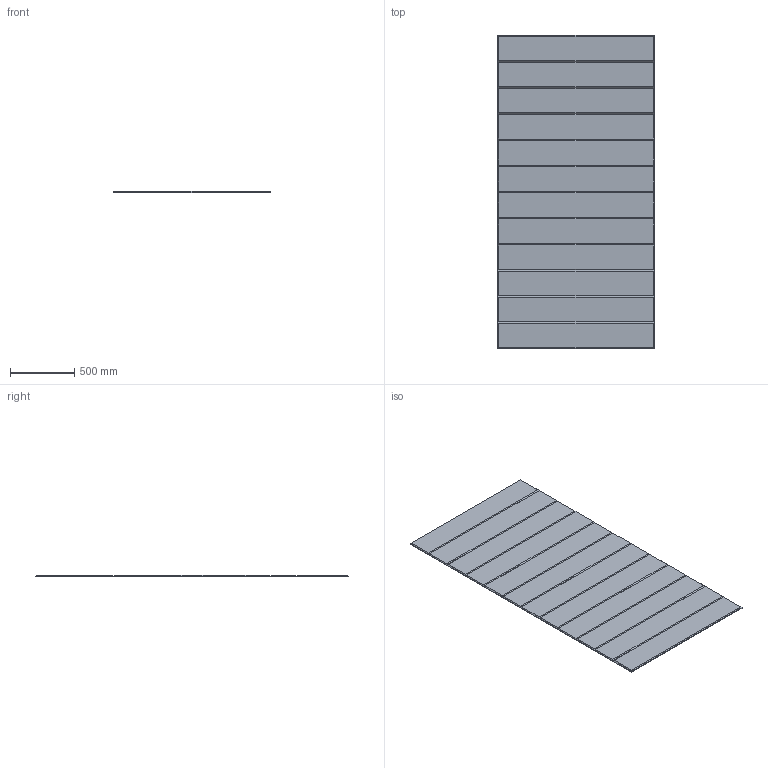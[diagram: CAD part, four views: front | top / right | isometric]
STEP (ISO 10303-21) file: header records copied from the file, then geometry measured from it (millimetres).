
FILE_DESCRIPTION(/* description */ (''),/* implementation_level */ '2;1');
FILE_NAME(/* name */ 'Y:\Design and Engineering\MaterialLogiq\CAD ASSETS\MASTER\PET ENGRAVED\WEB ASSETS\Latitude Dense.stp',/* time_stamp */ '2024-08-26T10:01:29-05:00',/* author */ ('Grant Baker'),/* organization */ (''),/* preprocessor_version */ 'ST-DEVELOPER v19',/* originating_system */ 'Autodesk Inventor 2023',/* authorisation */ '');
FILE_SCHEMA (('AUTOMOTIVE_DESIGN { 1 0 10303 214 3 1 1 }'));
Length unit declared in the file: inch
Products named in the file (1): Latitude Dense
Bounding box: 1219.2 x 2438.4 x 12.7 mm (x, y, z)
Volume: 37071635.5 mm3; surface area: 6081235 mm2
Topology: 1 solids, 1 shells, 65 faces, 141 edges, 78 vertices
Faces by surface type: plane 65
Entity records: 1716 total; most frequent: CARTESIAN_POINT 285, ORIENTED_EDGE 282, DIRECTION 273, LINE 141, VECTOR 141, EDGE_CURVE 141, VERTEX_POINT 78, AXIS2_PLACEMENT_3D 66
